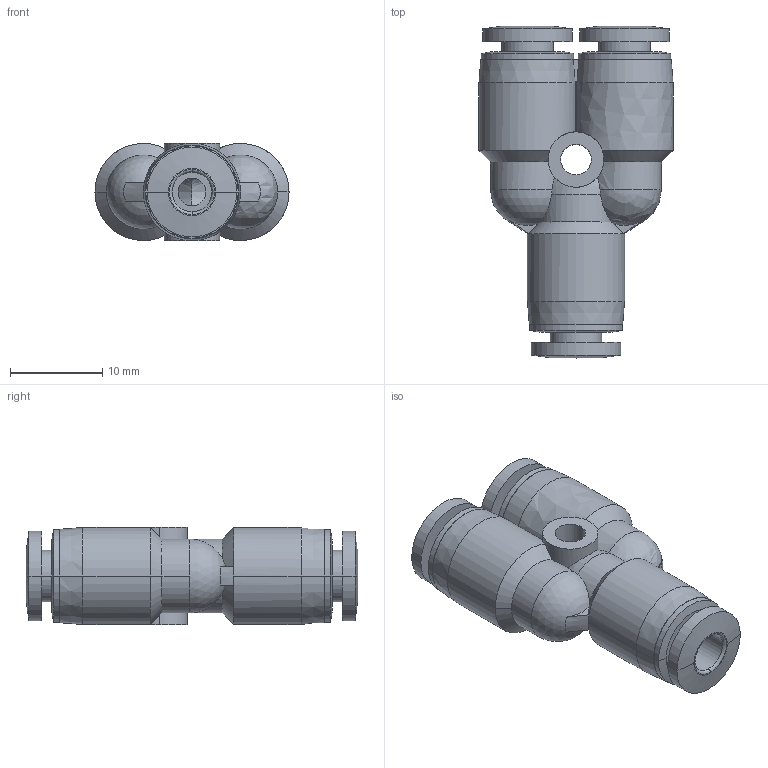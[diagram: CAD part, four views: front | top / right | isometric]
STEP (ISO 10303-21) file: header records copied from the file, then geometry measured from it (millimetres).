
FILE_DESCRIPTION (( 'STEP AP203' ), '1' );
FILE_NAME ('FY04-00.STEP', '2020-05-06T15:27:39', ( '' ), ( '' ), 'SwSTEP 2.0', 'SolidWorks 2019', '' );
FILE_SCHEMA (( 'CONFIG_CONTROL_DESIGN' ));
Length unit declared in the file: millimetre
Products named in the file (1): FY04-00
Bounding box: 21 x 35.9 x 10.5 mm (x, y, z)
Volume: 3454.8 mm3; surface area: 3044.2 mm2
Topology: 1 solids, 1 shells, 103 faces, 253 edges, 161 vertices
Faces by surface type: bspline 39, cylinder 30, cone 16, plane 15, sphere 3
Entity records: 4187 total; most frequent: CARTESIAN_POINT 1844, ORIENTED_EDGE 502, DIRECTION 448, EDGE_CURVE 251, AXIS2_PLACEMENT_3D 200, VERTEX_POINT 161, CIRCLE 135, EDGE_LOOP 120
